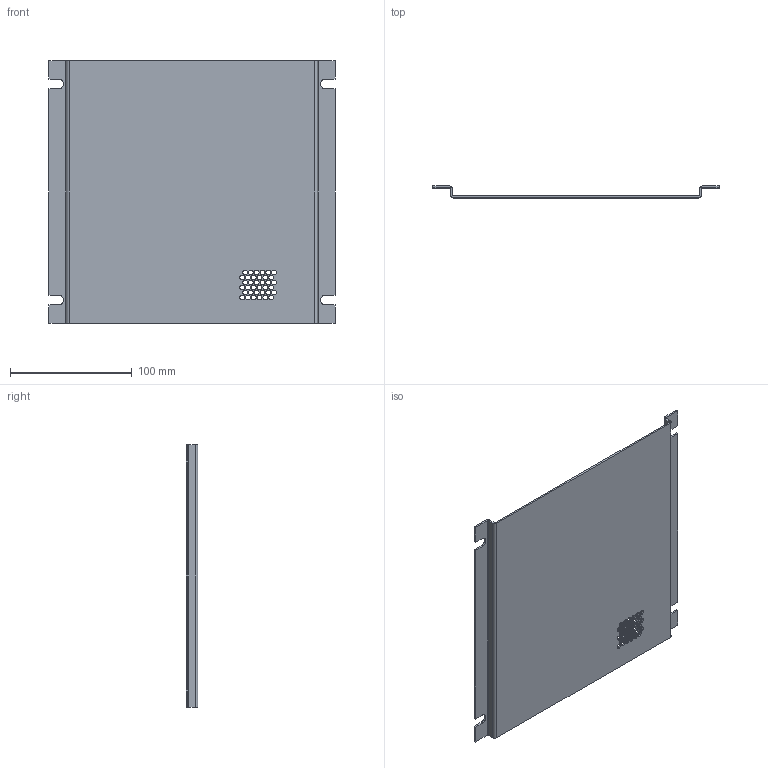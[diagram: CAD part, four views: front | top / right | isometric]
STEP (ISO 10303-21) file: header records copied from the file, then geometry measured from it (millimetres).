
FILE_DESCRIPTION( ( 'Unknown' ), '1' );
FILE_NAME( 'Q:/WEB DRAWINGS/STEP/SWBP1010.stp', 'Unknown', ( 'Unknown' ), ( 'Unknown' ), 'PSStep 17.0.49', 'Unknown', ' ' );
FILE_SCHEMA( ( 'AUTOMOTIVE_DESIGN { 1 0 10303 214 1 1 1 1 }' ) );
Length unit declared in the file: millimetre
Products named in the file (1): 1
Bounding box: 235.23 x 9.53 x 215.9 mm (x, y, z)
Volume: 76637.6 mm3; surface area: 107982 mm2
Topology: 1 solids, 1 shells, 74 faces, 252 edges, 180 vertices
Faces by surface type: cylinder 48, plane 26
Full cylindrical faces by diameter (mm): 3.962 x36
Entity records: 2475 total; most frequent: DIRECTION 426, CARTESIAN_POINT 399, ORIENTED_EDGE 360, EDGE_LOOP 182, EDGE_CURVE 180, AXIS2_PLACEMENT_3D 171, VERTEX_POINT 144, FACE_OUTER_BOUND 110
